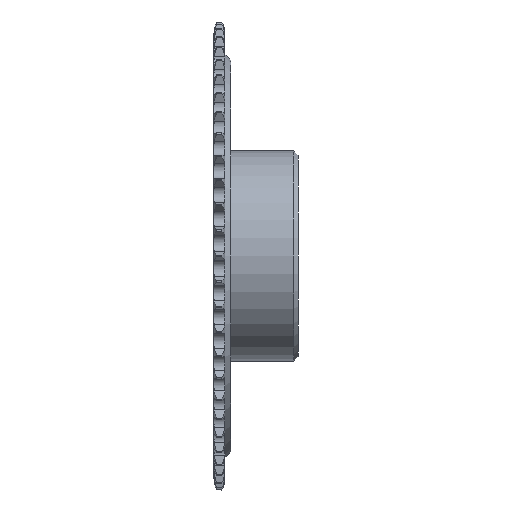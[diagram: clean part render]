
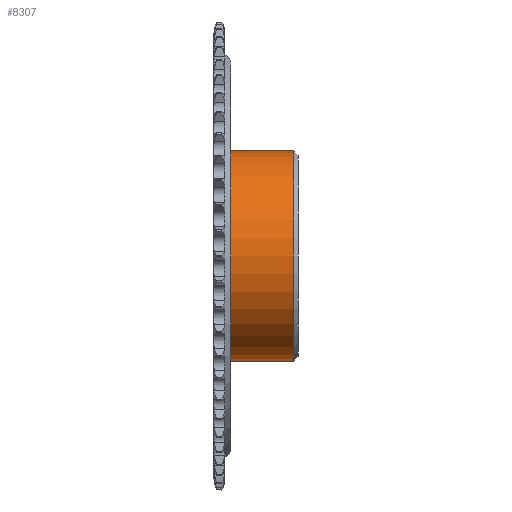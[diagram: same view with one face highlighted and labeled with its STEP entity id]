
A CAD part, front view. The second image highlights one B-rep face of the part: STEP entity #8307.
In plain terms, the highlighted cylindrical face has radius 25 mm (diameter 50 mm), a full revolution.
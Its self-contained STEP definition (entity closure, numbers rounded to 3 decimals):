
#866=CYLINDRICAL_SURFACE('',#9204,25.);
#1306=FACE_OUTER_BOUND('',#1756,.T.);
#1756=EDGE_LOOP('',(#7793,#7794,#7795,#7796));
#2192=CIRCLE('',#9203,25.);
#2193=CIRCLE('',#9205,25.);
#2608=LINE('',#16076,#3023);
#3023=VECTOR('',#11367,25.);
#3891=VERTEX_POINT('',#16071);
#3892=VERTEX_POINT('',#16074);
#5192=EDGE_CURVE('',#3891,#3891,#2192,.T.);
#5193=EDGE_CURVE('',#3892,#3892,#2193,.T.);
#5194=EDGE_CURVE('',#3892,#3891,#2608,.T.);
#7793=ORIENTED_EDGE('',*,*,#5193,.F.);
#7794=ORIENTED_EDGE('',*,*,#5194,.T.);
#7795=ORIENTED_EDGE('',*,*,#5192,.T.);
#7796=ORIENTED_EDGE('',*,*,#5194,.F.);
#8307=ADVANCED_FACE('',(#1306),#866,.T.);
#9203=AXIS2_PLACEMENT_3D('',#16072,#11361,#11362);
#9204=AXIS2_PLACEMENT_3D('',#16073,#11363,#11364);
#9205=AXIS2_PLACEMENT_3D('',#16075,#11365,#11366);
#11361=DIRECTION('center_axis',(1.,0.,0.));
#11362=DIRECTION('ref_axis',(0.,0.,-1.));
#11363=DIRECTION('center_axis',(1.,0.,0.));
#11364=DIRECTION('ref_axis',(0.,1.,0.));
#11365=DIRECTION('center_axis',(1.,0.,0.));
#11366=DIRECTION('ref_axis',(0.,0.,-1.));
#11367=DIRECTION('',(-1.,0.,0.));
#16071=CARTESIAN_POINT('',(4.,-25.,0.));
#16072=CARTESIAN_POINT('Origin',(4.,0.,0.));
#16073=CARTESIAN_POINT('Origin',(11.5,0.,0.));
#16074=CARTESIAN_POINT('',(19.,-25.,0.));
#16075=CARTESIAN_POINT('Origin',(19.,0.,0.));
#16076=CARTESIAN_POINT('',(11.5,-25.,0.));
